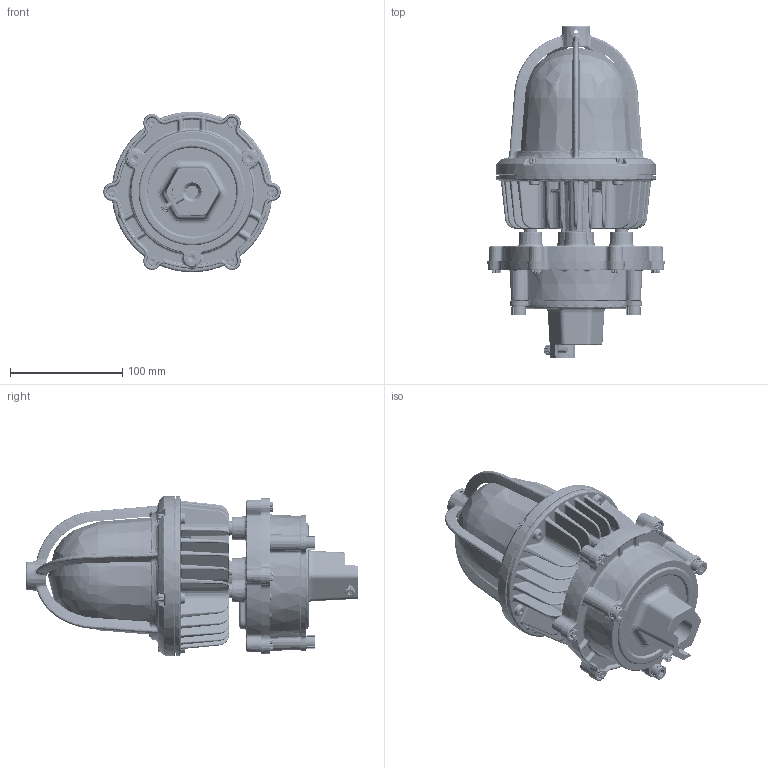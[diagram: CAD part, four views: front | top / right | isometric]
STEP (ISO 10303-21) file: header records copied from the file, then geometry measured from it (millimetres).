
FILE_DESCRIPTION (( 'STEP AP214' ), '1' );
FILE_NAME ('EPL-MJ-xxW-LED-XX-PND.STEP', '2021-05-14T18:53:23', ( '' ), ( '' ), 'SwSTEP 2.0', 'SolidWorks 2020', '' );
FILE_SCHEMA (( 'AUTOMOTIVE_DESIGN' ));
Length unit declared in the file: inch
Products named in the file (20): T4; T1; T5; LED腑啣軞傖; M5X15囀鞠褒; SP-AS8008-005-MFT-0819; T7; Pendant Mount; M8蹟邡 -b; T3; LED腑啣軞傖-B; M4x10; 產薛欶-12綠僅; M22x1揤盄蹟譫; T2; EPL-MJ-xxW-LED-XX-PND; 諉華え; M3x8; 揤啣-3; LED散热体-50W
Assembly tree (46 placements, depth 3):
  EPL-MJ-xxW-LED-XX-PND
    T7
    LED散热体-50W
      T4
      LED腑啣軞傖-B
      M4x10  x5
      T5
      M3x8  x6
      LED腑啣軞傖  x5
      諉華え
    產薛欶-12綠僅
    SP-AS8008-005-MFT-0819
    T3
      T1
      T2
      M5X15囀鞠褒  x6
    M22x1揤盄蹟譫
    Pendant Mount
    M5X15囀鞠褒  x6
    M4x10
    揤啣-3
    M8蹟邡 -b  x3
Bounding box: 158 x 295.5 x 143.08 mm (x, y, z)
Volume: 1631916.5 mm3; surface area: 435008.2 mm2
Topology: 44 solids, 50 shells, 9883 faces, 26575 edges, 17025 vertices
Faces by surface type: cylinder 4153, plane 2926, bspline 2022, cone 778, torus 4
Entity records: 217466 total; most frequent: CARTESIAN_POINT 112890, ORIENTED_EDGE 24386, DIRECTION 18624, EDGE_CURVE 12193, VERTEX_POINT 7497, AXIS2_PLACEMENT_3D 7402, EDGE_LOOP 5086, FACE_OUTER_BOUND 4863
